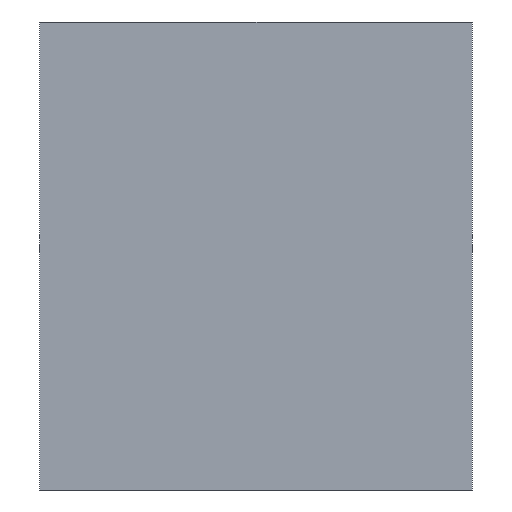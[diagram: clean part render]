
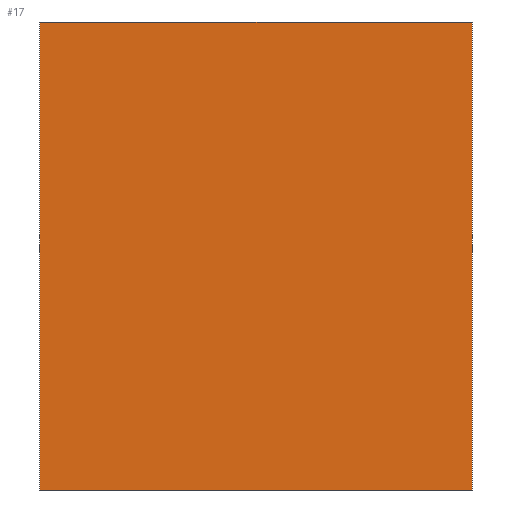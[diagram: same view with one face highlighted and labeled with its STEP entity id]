
A CAD part, left-side view. The second image highlights one B-rep face of the part: STEP entity #17.
In plain terms, the highlighted planar face has unit normal (-1, 0, 0).
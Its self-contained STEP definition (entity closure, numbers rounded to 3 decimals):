
#17 = ADVANCED_FACE('',(#18),#52,.F.);
#18 = FACE_BOUND('',#19,.F.);
#19 = EDGE_LOOP('',(#20,#30,#38,#46));
#20 = ORIENTED_EDGE('',*,*,#21,.F.);
#21 = EDGE_CURVE('',#22,#24,#26,.T.);
#22 = VERTEX_POINT('',#23);
#23 = CARTESIAN_POINT('',(-11.25,-8.65,-25.5));
#24 = VERTEX_POINT('',#25);
#25 = CARTESIAN_POINT('',(-11.25,-8.65,-6.8));
#26 = LINE('',#27,#28);
#27 = CARTESIAN_POINT('',(-11.25,-8.65,-25.5));
#28 = VECTOR('',#29,1.);
#29 = DIRECTION('',(0.,0.,1.));
#30 = ORIENTED_EDGE('',*,*,#31,.T.);
#31 = EDGE_CURVE('',#22,#32,#34,.T.);
#32 = VERTEX_POINT('',#33);
#33 = CARTESIAN_POINT('',(-11.25,8.65,-25.5));
#34 = LINE('',#35,#36);
#35 = CARTESIAN_POINT('',(-11.25,-8.65,-25.5));
#36 = VECTOR('',#37,1.);
#37 = DIRECTION('',(-0.,1.,0.));
#38 = ORIENTED_EDGE('',*,*,#39,.T.);
#39 = EDGE_CURVE('',#32,#40,#42,.T.);
#40 = VERTEX_POINT('',#41);
#41 = CARTESIAN_POINT('',(-11.25,8.65,-6.8));
#42 = LINE('',#43,#44);
#43 = CARTESIAN_POINT('',(-11.25,8.65,-25.5));
#44 = VECTOR('',#45,1.);
#45 = DIRECTION('',(0.,0.,1.));
#46 = ORIENTED_EDGE('',*,*,#47,.F.);
#47 = EDGE_CURVE('',#24,#40,#48,.T.);
#48 = LINE('',#49,#50);
#49 = CARTESIAN_POINT('',(-11.25,-8.65,-6.8));
#50 = VECTOR('',#51,1.);
#51 = DIRECTION('',(-0.,1.,0.));
#52 = PLANE('',#53);
#53 = AXIS2_PLACEMENT_3D('',#54,#55,#56);
#54 = CARTESIAN_POINT('',(-11.25,-8.65,-25.5));
#55 = DIRECTION('',(1.,0.,-0.));
#56 = DIRECTION('',(0.,0.,1.));
